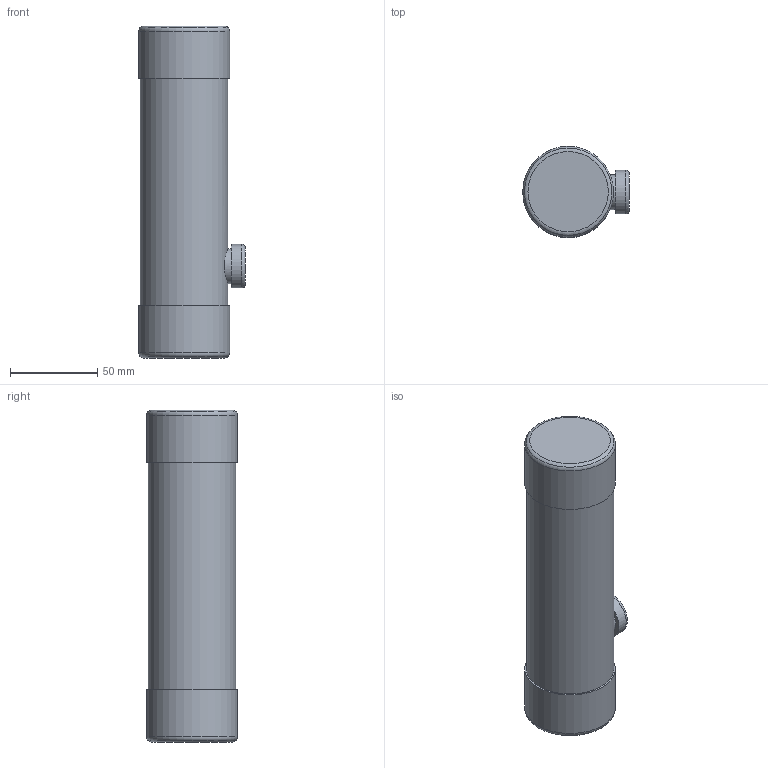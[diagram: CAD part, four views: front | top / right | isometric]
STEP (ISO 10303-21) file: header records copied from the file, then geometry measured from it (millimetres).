
FILE_DESCRIPTION(/* description */ ('STEP AP242 Edition 2','CAx-IF Rec.Pracs.---Representation and Presentation of Product Manufacturing Information (PMI)---4.0---2014-10-13','CAx-IF Rec.Pracs.---3D Tessellated Geometry---0.4---2014-09-14','2;1','CAx-IF Rec.Pracs.---User Defined Attributes---1.5---2016-08-15'),/* implementation_level */ '2;1');
FILE_NAME(/* name */ 'Assem2h - tank',/* time_stamp */ '2025-12-01T14:50:28Z',/* author */ (''),/* organization */ (''),/* preprocessor_version */ 'ST-DEVELOPER v20',/* originating_system */ 'ONSHAPE BY PTC INC, 1.207',/* authorisation */ ' ');
FILE_SCHEMA (('AP242_MANAGED_MODEL_BASED_3D_ENGINEERING_MIM_LF { 1 0 10303 442 3 1 4 }'));
Length unit declared in the file: metre
Products named in the file (1): tank
Bounding box: 61 x 52 x 190 mm (x, y, z)
Volume: 38985.3 mm3; surface area: 68570.5 mm2
Topology: 1 solids, 2 shells, 23 faces, 38 edges, 24 vertices
Faces by surface type: plane 11, cylinder 9, torus 3
Full cylindrical faces by diameter (mm): 20 x2, 25 x1, 48 x1, 50 x3, 52 x2
Entity records: 530 total; most frequent: CARTESIAN_POINT 102, DIRECTION 86, AXIS2_PLACEMENT_3D 43, ORIENTED_EDGE 42, EDGE_LOOP 42, FACE_BOUND 42, ADVANCED_FACE 23, EDGE_CURVE 21
